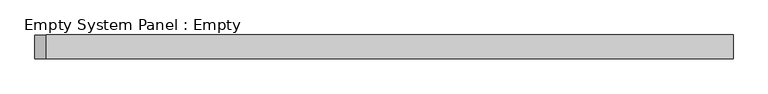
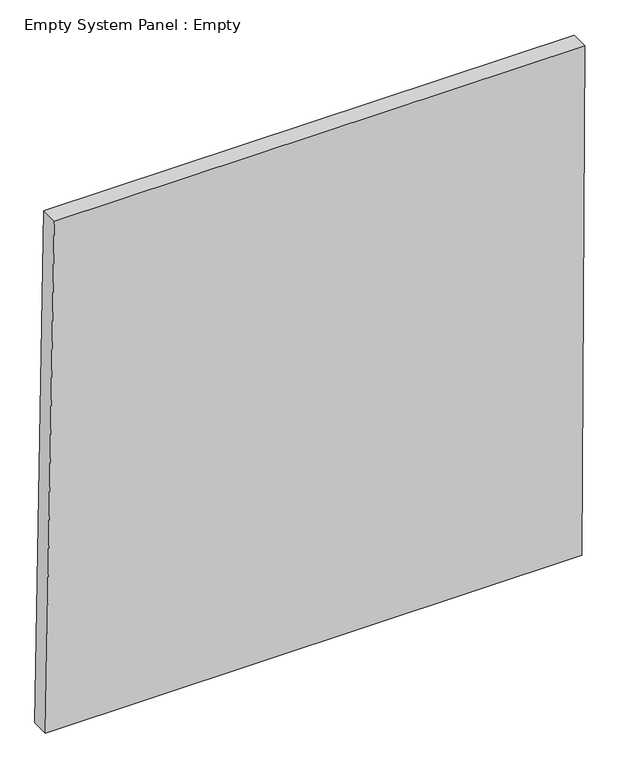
"""IFC4 building model written with IfcOpenShell, lengths in millimetres: plate geometry, Empty System Panel : Empty."""

from ifc_helpers import new_model, si_unit, frame, origin, place, context, project, spatial, polyline, outline, extrude, source, transform, mapped, element, save


def empty_system_panel_empty_cd960515(model_context):
    return source(origin(), model_context, "Body", "SweptSolid", [
        extrude(outline(polyline([(0.0, -1494.3220321), (0.0, 1476.605278), (2980.4500396, 1494.3220321), (2981.0562089, -1445.7156984), (0.0, -1494.3220321)])), frame((0.0, -50.8, 0.0), z_axis=(0.0, 1.0, 0.0), x_axis=(0.0, 0.0, 1.0)), (0.0, 0.0, 1.0), 101.6),
    ])


if __name__ == "__main__":
    model = new_model("IFC4")
    model_context = context("Model", 3, world=origin())
    ifc_project = project(units=[si_unit("LENGTHUNIT", "METRE", prefix="MILLI")], contexts=[model_context])
    site = spatial("IfcSite", under=ifc_project)
    building = spatial("IfcBuilding", under=site)
    placement = place(None, origin())
    empty_system_panel_empty_shape = empty_system_panel_empty_cd960515(model_context)
    element("IfcPlate", 1, ObjectType="Empty System Panel : Empty", at=placement, inside=building, context=model_context, shape_type="MappedRepresentation", body=[
        mapped(empty_system_panel_empty_shape, transform((0.0, 0.0, 0.0), x_axis=(1.0, 0.0, 0.0), y_axis=(0.0, 1.0, 0.0), z_axis=(0.0, 0.0, 1.0))),
    ])
    save(model, "model.ifc")
